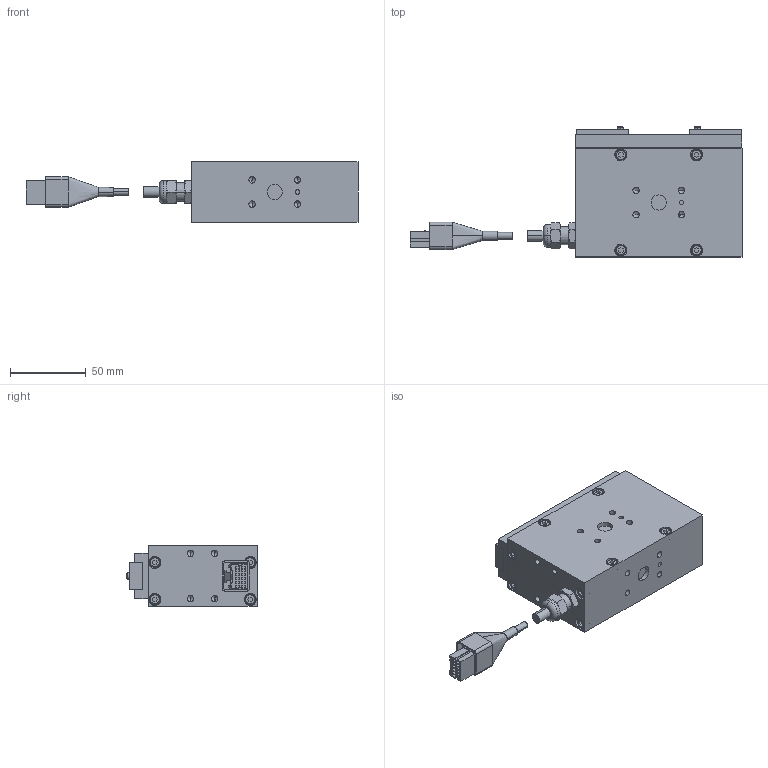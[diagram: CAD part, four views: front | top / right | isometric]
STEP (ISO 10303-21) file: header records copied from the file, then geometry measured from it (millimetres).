
FILE_DESCRIPTION (( 'STEP AP214' ), '1' );
FILE_NAME ('ESG-FS-2840.STEP', '2009-02-12T09:07:40', ( '風音庵' ), ( '' ), 'SwSTEP 2.0', 'SolidWorks 2007', '' );
FILE_SCHEMA (( 'AUTOMOTIVE_DESIGN' ));
Length unit declared in the file: millimetre
Products named in the file (7): CNNECTOR丂BB丂ASSY_棉太倌; CONNECTOR　DK-2100D-12R_ﾃﾞﾌｫﾙﾄ; ESG1-FS-2840 BODY_蹬怮椔; ESG1-FS-2840 FINGER_蹬怮椔; CONNECTOR COVER　BB_ﾃﾞﾌｫﾙﾄ; JOINT_蹬怮椔; ESG-FS-2840
Assembly tree (7 placements, depth 3):
  ESG-FS-2840
    ESG1-FS-2840 BODY_蹬怮椔
    ESG1-FS-2840 FINGER_蹬怮椔  x2
    JOINT_蹬怮椔
    CNNECTOR丂BB丂ASSY_棉太倌
      CONNECTOR　DK-2100D-12R_ﾃﾞﾌｫﾙﾄ
      CONNECTOR COVER　BB_ﾃﾞﾌｫﾙﾄ
Bounding box: 219.39 x 86 x 40 mm (x, y, z)
Volume: 355037.5 mm3; surface area: 51056.6 mm2
Topology: 6 solids, 6 shells, 447 faces, 1048 edges, 658 vertices
Faces by surface type: plane 263, cylinder 104, cone 76, torus 2, bspline 2
Entity records: 17604 total; most frequent: CARTESIAN_POINT 2775, DIRECTION 2064, ORIENTED_EDGE 1980, EDGE_CURVE 990, VECTOR 690, LINE 690, AXIS2_PLACEMENT_3D 687, VERTEX_POINT 636
